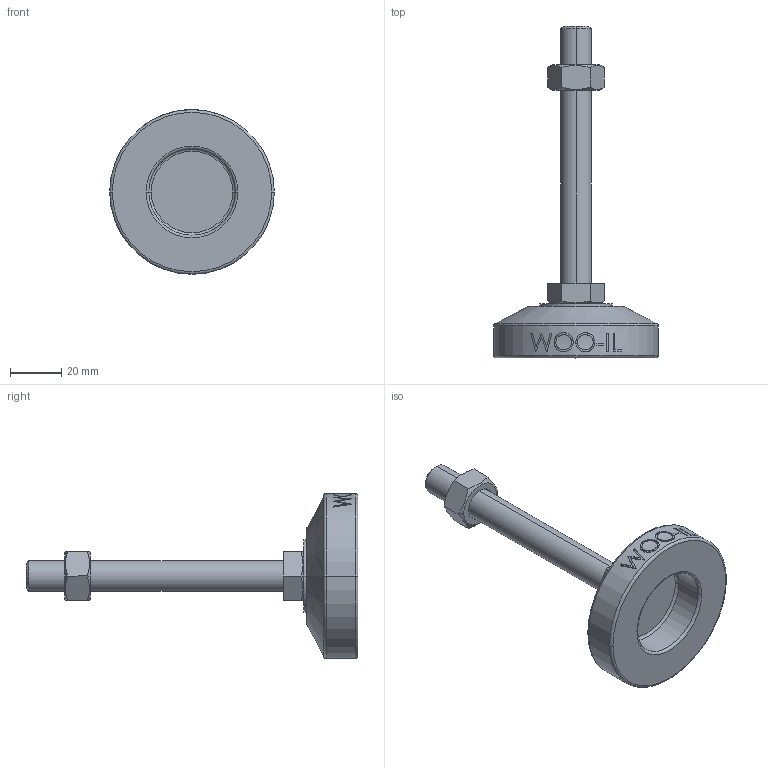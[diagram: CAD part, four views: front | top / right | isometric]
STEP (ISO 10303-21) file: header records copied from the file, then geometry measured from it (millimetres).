
FILE_DESCRIPTION (( 'STEP AP214' ), '1' );
FILE_NAME ('MFZ64-M12-100.step', '2021-01-15T07:05:15', ( '' ), ( '' ), 'SwSTEP 2.0', 'SolidWorks 2019', '' );
FILE_SCHEMA (( 'AUTOMOTIVE_DESIGN' ));
Length unit declared in the file: millimetre
Products named in the file (2): MFZ64-M12-100
Bounding box: 64 x 129 x 64 mm (x, y, z)
Volume: 61355.5 mm3; surface area: 16778.8 mm2
Topology: 3 solids, 3 shells, 106 faces, 243 edges, 154 vertices
Faces by surface type: plane 48, cylinder 18, bspline 16, cone 14, torus 10
Entity records: 4520 total; most frequent: CARTESIAN_POINT 2177, ORIENTED_EDGE 486, DIRECTION 439, EDGE_CURVE 243, AXIS2_PLACEMENT_3D 170, VERTEX_POINT 154, EDGE_LOOP 119, FACE_OUTER_BOUND 106
